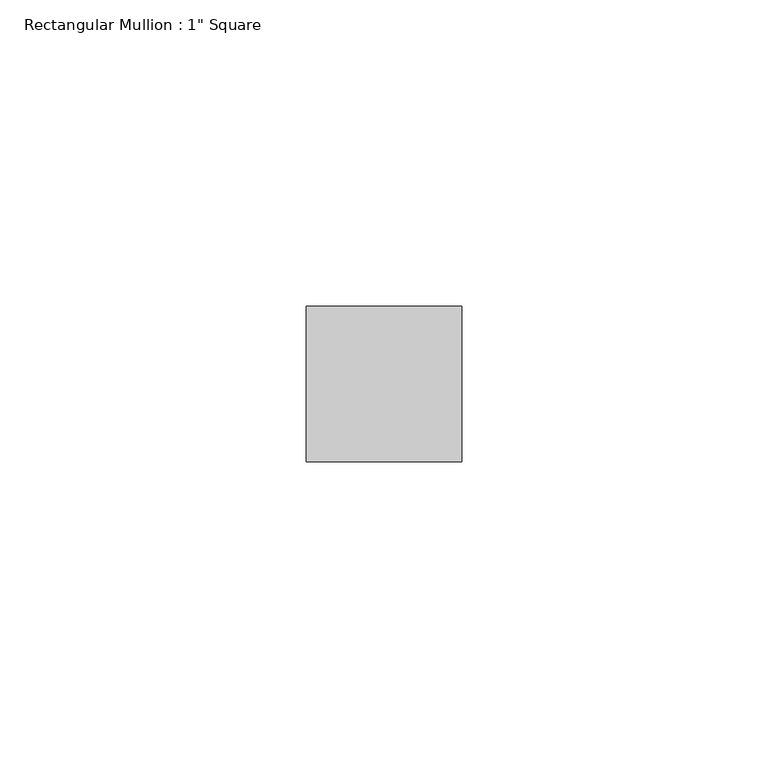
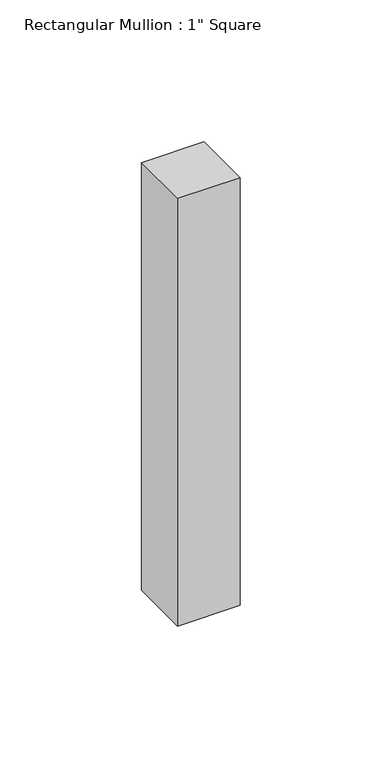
"""IFC4 building model written with IfcOpenShell, lengths in millimetres: member geometry."""

from ifc_helpers import new_model, si_unit, frame, origin, place, context, project, spatial, polyline, outline, extrude, source, transform, mapped, element, save


def member_20147643(model_context):
    return source(origin(), model_context, "Body", "SweptSolid", [
        extrude(outline(polyline([(12.7, 12.7), (12.7, -12.7), (-12.7, -12.7), (-12.7, 12.7), (12.7, 12.7)])), frame((0.0, 0.0, -184.0430544), z_axis=(0.0, 0.0, 1.0), x_axis=(1.0, 0.0, 0.0)), (0.0, 0.0, 1.0), 184.0430544),
    ])


if __name__ == "__main__":
    model = new_model("IFC4")
    model_context = context("Model", 3, world=origin())
    ifc_project = project(units=[si_unit("LENGTHUNIT", "METRE", prefix="MILLI")], contexts=[model_context])
    site = spatial("IfcSite", under=ifc_project)
    building = spatial("IfcBuilding", under=site)
    placement = place(None, origin())
    member_shape = member_20147643(model_context)
    element("IfcMember", 1, ObjectType="Rectangular Mullion : 1\" Square", at=placement, inside=building, context=model_context, shape_type="MappedRepresentation", body=[
        mapped(member_shape, transform((0.0, 0.0, 0.0), x_axis=(1.0, 0.0, 0.0), y_axis=(0.0, 1.0, 0.0), z_axis=(0.0, 0.0, 1.0))),
    ])
    save(model, "model.ifc")
